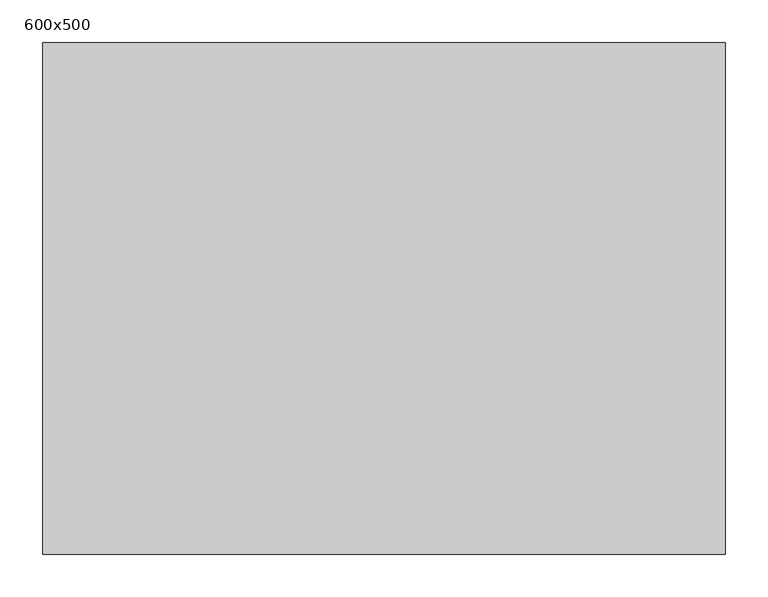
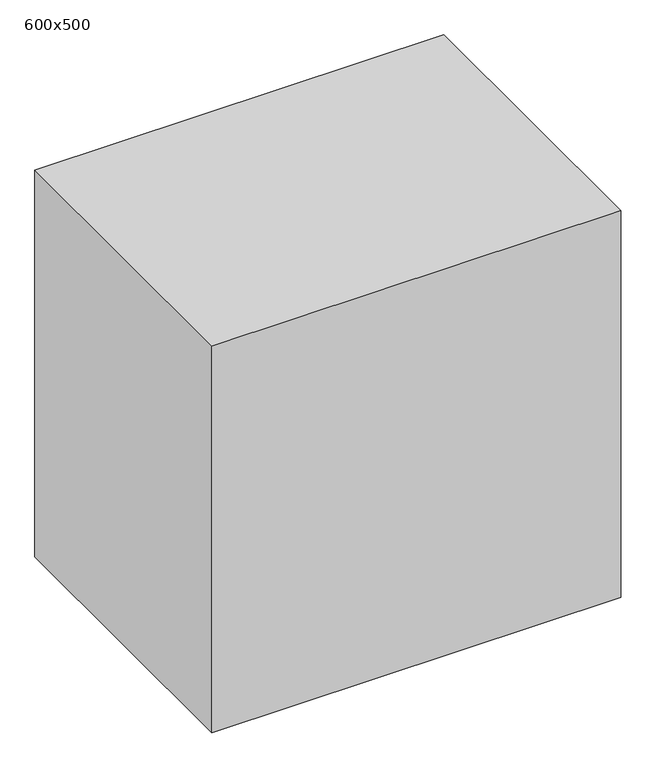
"""IFC4 building model written with IfcOpenShell, lengths in millimetres: flow terminal geometry, SP_раковина_LEG_настраиваемая : 600x500."""

from ifc_helpers import new_model, si_unit, origin, origin_with_axes, place, context, project, spatial, polyline, outline, extrude, source, transform, mapped, element, save


def flow_terminal_600x500_14b84596(model_context):
    return source(origin(), model_context, "Body", "SweptSolid", [
        extrude(outline(polyline([(400.0, 0.0), (-400.0, 0.0), (-400.0, 600.0), (400.0, 600.0), (400.0, 0.0)])), origin_with_axes(), (0.0, 0.0, 1.0), 800.0),
    ])


if __name__ == "__main__":
    model = new_model("IFC4")
    model_context = context("Model", 3, world=origin())
    ifc_project = project(units=[si_unit("LENGTHUNIT", "METRE", prefix="MILLI")], contexts=[model_context])
    site = spatial("IfcSite", under=ifc_project)
    building = spatial("IfcBuilding", under=site)
    placement = place(None, origin())
    flow_terminal_600x500_shape = flow_terminal_600x500_14b84596(model_context)
    element("IfcFlowTerminal", 1, ObjectType="SP_раковина_LEG_настраиваемая : 600x500", at=placement, inside=building, context=model_context, shape_type="MappedRepresentation", body=[
        mapped(flow_terminal_600x500_shape, transform((0.0, 0.0, 0.0), x_axis=(1.0, 0.0, 0.0), y_axis=(0.0, 1.0, 0.0), z_axis=(0.0, 0.0, 1.0))),
    ])
    save(model, "model.ifc")
